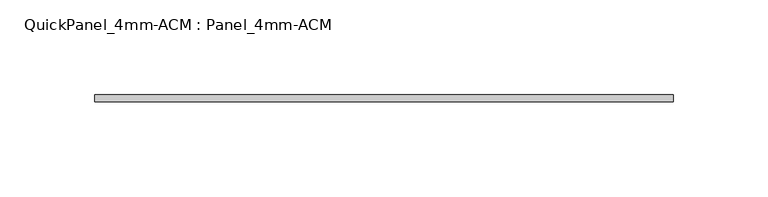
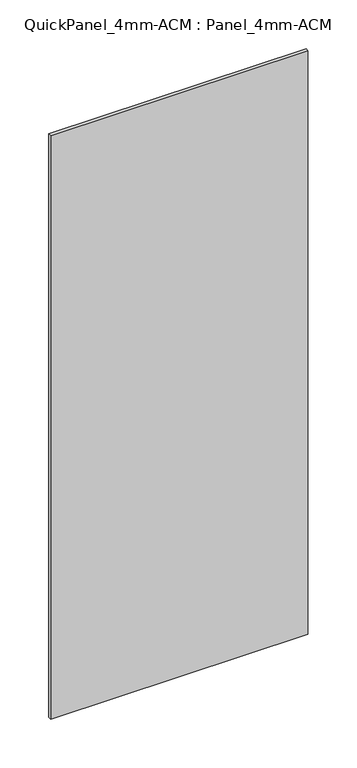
"""IFC4 building model written with IfcOpenShell, lengths in millimetres: plate geometry, QuickPanel_4mm-ACM : Panel_4mm-ACM."""

from ifc_helpers import new_model, si_unit, origin, origin_with_axes, place, context, project, spatial, polyline, outline, extrude, source, transform, mapped, element, save


def quickpanel_4mm_acm_panel_4mm_acm_1758e2e7(model_context):
    return source(origin(), model_context, "Body", "SweptSolid", [
        extrude(outline(polyline([(-152.665908, -6.096), (152.665908, -6.096), (152.665908, -9.906), (-152.665908, -9.906), (-152.665908, -6.096)])), origin_with_axes(), (0.0, 0.0, 1.0), 731.7965616),
    ])


if __name__ == "__main__":
    model = new_model("IFC4")
    model_context = context("Model", 3, world=origin())
    ifc_project = project(units=[si_unit("LENGTHUNIT", "METRE", prefix="MILLI")], contexts=[model_context])
    site = spatial("IfcSite", under=ifc_project)
    building = spatial("IfcBuilding", under=site)
    placement = place(None, origin())
    quickpanel_4mm_acm_panel_4mm_acm_shape = quickpanel_4mm_acm_panel_4mm_acm_1758e2e7(model_context)
    element("IfcPlate", 1, ObjectType="QuickPanel_4mm-ACM : Panel_4mm-ACM", at=placement, inside=building, context=model_context, shape_type="MappedRepresentation", body=[
        mapped(quickpanel_4mm_acm_panel_4mm_acm_shape, transform((0.0, 0.0, 0.0), x_axis=(1.0, 0.0, 0.0), y_axis=(0.0, 1.0, 0.0), z_axis=(0.0, 0.0, 1.0))),
    ])
    save(model, "model.ifc")
